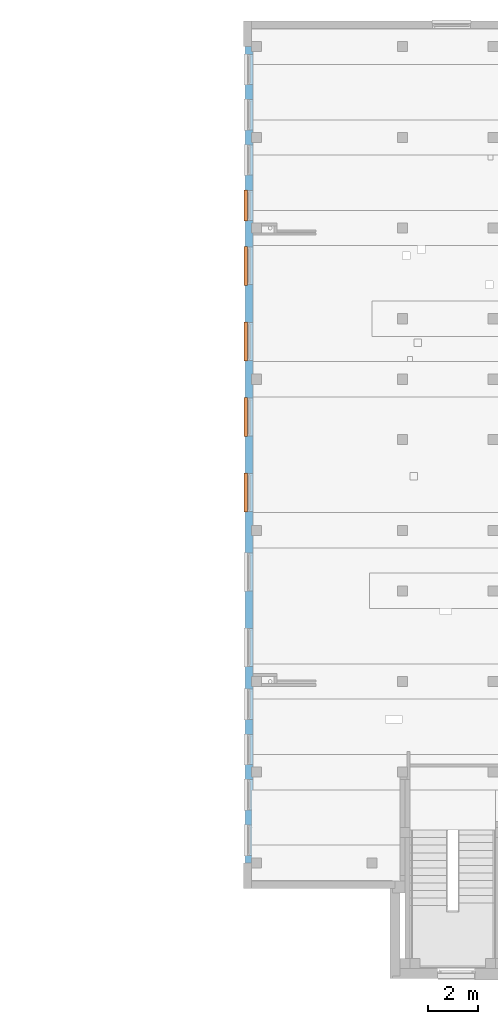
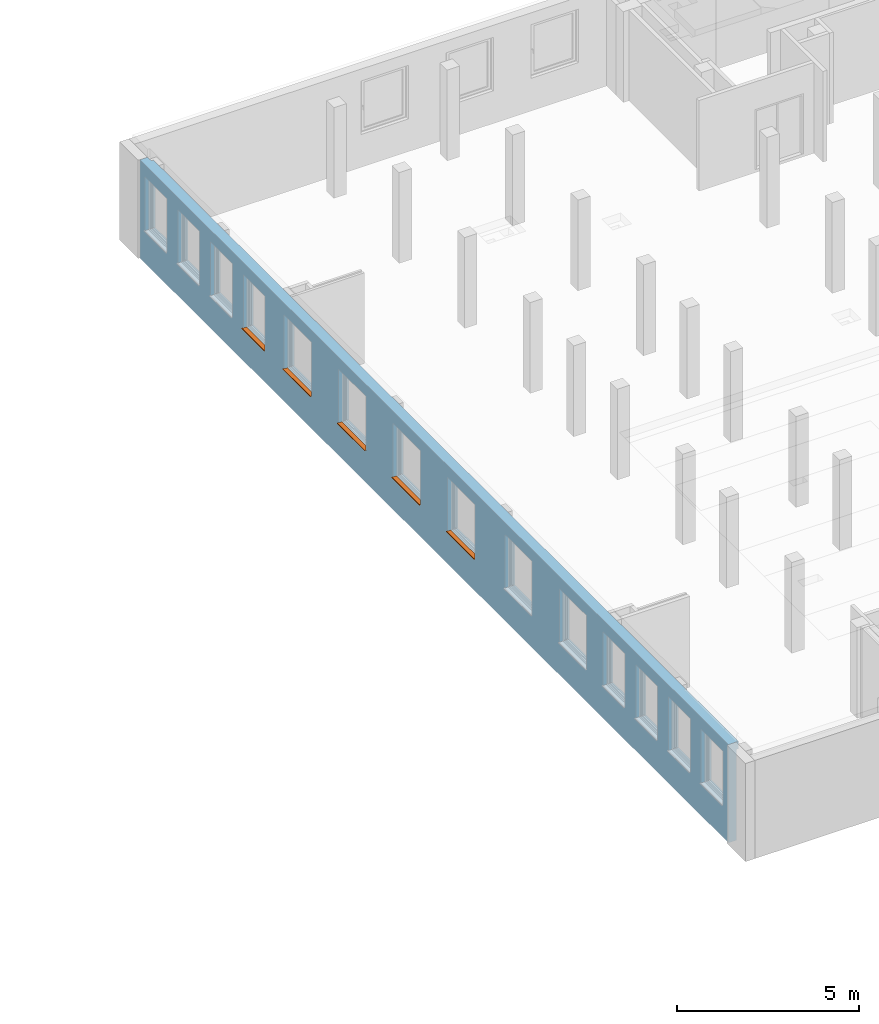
# One storey, part 22 of 27: 5 proxies, 14 openings, plus 1 element that does not belong to this part.
"""IFC4 building model written with IfcOpenShell, lengths in metres."""

from ifc_helpers import new_model, entity, si_unit, converted_unit, derived_unit, frame, origin, origin_with_axes, place, context, subcontext, project, spatial, polyline, outline, extrude, clip, bounded_halfspace, faceted_brep, source, transform, mapped, material, layer, layer_set, layer_usage, element, fill, save


model = new_model("IFC4")

# Units and contexts
model_context = context("Model", 3, precision=1e-05, world=origin())
body_context = subcontext(model_context, "Body", "Model", "MODEL_VIEW")
ifc_project = project(units=[si_unit("LENGTHUNIT", "METRE"), si_unit("AREAUNIT", "SQUARE_METRE"), si_unit("VOLUMEUNIT", "CUBIC_METRE"), si_unit("MASSUNIT", "GRAM", prefix="KILO"), converted_unit("PLANEANGLEUNIT", "DEGREE", entity("IfcPlaneAngleMeasure", 0.0174532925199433), si_unit("PLANEANGLEUNIT", "RADIAN"), dimensions=[0, 0, 0, 0, 0, 0, 0]), derived_unit("THERMALTRANSMITTANCEUNIT", [(si_unit("POWERUNIT", "WATT"), 1), (si_unit("THERMODYNAMICTEMPERATUREUNIT", "KELVIN"), -1), (si_unit("LENGTHUNIT", "METRE"), -2)]), derived_unit("VOLUMETRICFLOWRATEUNIT", [(si_unit("LENGTHUNIT", "METRE"), 3), (converted_unit("TIMEUNIT", "hour", entity("IfcTimeMeasure", 3600.0), si_unit("TIMEUNIT", "SECOND"), dimensions=[0, 0, 1, 0, 0, 0, 0]), -1), (si_unit("LENGTHUNIT", "METRE"), -1)])], contexts=[model_context])

# Site, building, storey
site_placement = place(None, origin())
site = spatial("IfcSite", under=ifc_project, at=site_placement, Name="3. ASŘ", CompositionType="ELEMENT")
building_placement = place(site_placement, origin())
building = spatial("IfcBuilding", under=site, at=building_placement, Name="Pavilon C", CompositionType="ELEMENT")
storey_placement = place(building_placement, frame((0.0, 0.0, 10.5)))
storey = spatial("IfcBuildingStorey", under=building, at=storey_placement, Name="Půdorys 4.NP", CompositionType="ELEMENT", Elevation=10.5)

# Wall, openings, proxies
ifc_material_1 = material(Name="ZELEZOBETONOVÁ KCE")
ifc_layer = layer(ifc_material_1, 0.32)
ifc_layer_set = layer_set([ifc_layer])
ifc_layer_usage = layer_usage(ifc_layer_set, "AXIS2", "POSITIVE", 0.0)
wall_placement = place(storey_placement, frame((24.5, 32.4, -0.1), z_axis=(0.0, 0.0, 1.0), x_axis=(-2.24566593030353e-16, -1.0, 0.0)))
wall = element("IfcWall", 1, at=wall_placement, inside=storey, material=ifc_layer_usage, Name="ZELEZOBETONOVÁ KCE", context=body_context, shape_type="Clipping", body=[
    clip(clip(clip(clip(clip(clip(clip(extrude(outline(polyline([(-32.4, 0.0), (-7.18613097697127e-17, -1.61376495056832e-32), (-7.18613097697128e-17, 0.32), (-32.2, 0.32), (-32.2, 0.25), (-32.4, 0.25), (-32.4, 0.0)])), frame((32.4, 0.0, 0.0), z_axis=(0.0, 0.0, 1.0), x_axis=(1.0, 0.0, 0.0)), (0.0, 0.0, 1.0), 3.3), bounded_halfspace(frame((13.2, 0.284999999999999, 3.05), z_axis=(0.0, 0.0, 1.0), x_axis=(2.24566593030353e-16, -1.0, 0.0)), True, origin_with_axes(), polyline([(13.0, 0.319999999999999), (13.0, 0.250000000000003), (13.4, 0.250000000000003), (13.4, 0.319999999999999), (13.0, 0.319999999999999)]))), bounded_halfspace(frame((25.2, 0.284999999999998, 3.05), z_axis=(0.0, 0.0, 1.0), x_axis=(2.24566593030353e-16, -1.0, 0.0)), True, origin_with_axes(), polyline([(25.0, 0.319999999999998), (25.0, 0.249999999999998), (25.4, 0.249999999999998), (25.4, 0.319999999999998), (25.0, 0.319999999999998)]))), bounded_halfspace(frame((28.8, 0.284999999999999, 3.05), z_axis=(0.0, 0.0, 1.0), x_axis=(2.24566593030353e-16, -1.0, 0.0)), True, origin_with_axes(), polyline([(28.6, 0.319999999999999), (28.6, 0.249999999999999), (29.0, 0.249999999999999), (29.0, 0.319999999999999), (28.6, 0.319999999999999)]))), bounded_halfspace(frame((19.2, 0.285000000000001, 3.05), z_axis=(0.0, 0.0, 1.0), x_axis=(2.24566593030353e-16, -1.0, 0.0)), True, origin_with_axes(), polyline([(19.0, 0.320000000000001), (19.0, 0.249999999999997), (19.4, 0.249999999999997), (19.4, 0.320000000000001), (19.0, 0.320000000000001)]))), bounded_halfspace(frame((7.2, 0.285000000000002, 3.05), z_axis=(0.0, 0.0, 1.0), x_axis=(2.24566593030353e-16, -1.0, 0.0)), True, origin_with_axes(), polyline([(7.0, 0.320000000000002), (7.0, 0.250000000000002), (7.4, 0.250000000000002), (7.4, 0.320000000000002), (7.0, 0.320000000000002)]))), bounded_halfspace(frame((32.3, 0.285, 3.05), z_axis=(0.0, 0.0, 1.0), x_axis=(2.24566593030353e-16, -1.0, 0.0)), True, origin_with_axes(), polyline([(32.2, 0.32), (32.2, 0.25), (32.4, 0.25), (32.4, 0.32), (32.2, 0.32)]))), bounded_halfspace(frame((3.6, 0.284999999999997, 3.05), z_axis=(0.0, 0.0, 1.0), x_axis=(2.24566593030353e-16, -1.0, 0.0)), True, origin_with_axes(), polyline([(3.4, 0.320000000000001), (3.4, 0.249999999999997), (3.8, 0.249999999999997), (3.8, 0.320000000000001), (3.4, 0.320000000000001)]))),
])
opening_1_placement = place(wall_placement, frame((30.9, -3.36849889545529e-16, 1.1), z_axis=(0.0, 1.0, 0.0), x_axis=(0.0, 0.0, 1.0)))
element("IfcOpeningElement", 2, at=opening_1_placement, cuts=wall, Name="Okenní otvor", ObjectType="Opening", context=body_context, shape_type="SweptSolid", body=[
    extrude(outline(polyline([(0.0, 1.2), (1.8, 1.2), (1.8, 0.0), (0.0, 0.0), (0.0, 1.2)])), origin_with_axes(), (0.0, 0.0, 1.0), 0.32),
])
opening_2_placement = place(wall_placement, frame((29.1, -7.41069757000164e-16, 1.1), z_axis=(0.0, 1.0, 0.0), x_axis=(0.0, 0.0, 1.0)))
element("IfcOpeningElement", 3, at=opening_2_placement, cuts=wall, Name="Okenní otvor", ObjectType="Opening", context=body_context, shape_type="SweptSolid", body=[
    extrude(outline(polyline([(0.0, 1.2), (1.8, 1.2), (1.8, 0.0), (0.0, 0.0), (0.0, 1.2)])), origin_with_axes(), (0.0, 0.0, 1.0), 0.32),
])
opening_3_placement = place(wall_placement, frame((27.3, -1.1452896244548e-15, 1.1), z_axis=(0.0, 1.0, 0.0), x_axis=(0.0, 0.0, 1.0)))
element("IfcOpeningElement", 4, at=opening_3_placement, cuts=wall, Name="Okenní otvor", ObjectType="Opening", context=body_context, shape_type="SweptSolid", body=[
    extrude(outline(polyline([(0.0, 1.2), (1.8, 1.2), (1.8, 0.0), (0.0, 0.0), (0.0, 1.2)])), origin_with_axes(), (0.0, 0.0, 1.0), 0.32),
])
opening_4_placement = place(wall_placement, frame((25.5, -1.54950949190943e-15, 1.1), z_axis=(0.0, 1.0, 0.0), x_axis=(0.0, 0.0, 1.0)))
element("IfcOpeningElement", 5, at=opening_4_placement, cuts=wall, Name="Okenní otvor", ObjectType="Opening", context=body_context, shape_type="SweptSolid", body=[
    extrude(outline(polyline([(0.0, 1.2), (1.8, 1.2), (1.8, 0.0), (0.0, 0.0), (0.0, 1.2)])), origin_with_axes(), (0.0, 0.0, 1.0), 0.32),
])
opening_5_placement = place(wall_placement, frame((23.1, -2.08846931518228e-15, 1.1), z_axis=(0.0, 1.0, 0.0), x_axis=(0.0, 0.0, 1.0)))
element("IfcOpeningElement", 6, at=opening_5_placement, cuts=wall, Name="Okenní otvor", ObjectType="Opening", context=body_context, shape_type="SweptSolid", body=[
    extrude(outline(polyline([(0.0, 1.5), (1.8, 1.5), (1.8, 0.0), (0.0, 0.0), (0.0, 1.5)])), origin_with_axes(), (0.0, 0.0, 1.0), 0.320000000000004),
])
opening_6_placement = place(wall_placement, frame((20.1, 8.75809712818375e-16, 1.1), z_axis=(0.0, 1.0, 0.0), x_axis=(0.0, 0.0, 1.0)))
element("IfcOpeningElement", 7, at=opening_6_placement, cuts=wall, Name="Okenní otvor", ObjectType="Opening", context=body_context, shape_type="SweptSolid", body=[
    extrude(outline(polyline([(0.0, 1.5), (1.8, 1.5), (1.8, 0.0), (0.0, 0.0), (0.0, 1.5)])), origin_with_axes(), (0.0, 0.0, 1.0), 0.32),
])
opening_7_placement = place(wall_placement, frame((16.95, 1.68424944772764e-16, 1.1), z_axis=(0.0, 1.0, 0.0), x_axis=(0.0, 0.0, 1.0)))
opening_7 = element("IfcOpeningElement", 8, at=opening_7_placement, cuts=wall, Name="Okenní otvor", ObjectType="Opening", context=body_context, shape_type="SweptSolid", body=[
    extrude(outline(polyline([(0.0, 1.5), (1.8, 1.5), (1.8, 0.0), (0.0, 0.0), (0.0, 1.5)])), origin_with_axes(), (0.0, 0.0, 1.0), 0.32),
])
opening_8_placement = place(wall_placement, frame((13.95, -5.05274834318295e-16, 1.1), z_axis=(0.0, 1.0, 0.0), x_axis=(0.0, 0.0, 1.0)))
opening_8 = element("IfcOpeningElement", 9, at=opening_8_placement, cuts=wall, Name="Okenní otvor", ObjectType="Opening", context=body_context, shape_type="SweptSolid", body=[
    extrude(outline(polyline([(0.0, 1.5), (1.8, 1.5), (1.8, 0.0), (0.0, 0.0), (0.0, 1.5)])), origin_with_axes(), (0.0, 0.0, 1.0), 0.32),
])
opening_9_placement = place(wall_placement, frame((10.95, -1.17897461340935e-15, 1.1), z_axis=(0.0, 1.0, 0.0), x_axis=(0.0, 0.0, 1.0)))
opening_9 = element("IfcOpeningElement", 10, at=opening_9_placement, cuts=wall, Name="Okenní otvor", ObjectType="Opening", context=body_context, shape_type="SweptSolid", body=[
    extrude(outline(polyline([(0.0, 1.5), (1.8, 1.5), (1.8, 0.0), (0.0, 0.0), (0.0, 1.5)])), origin_with_axes(), (0.0, 0.0, 1.0), 0.32),
])
opening_10_placement = place(wall_placement, frame((7.95, -1.85267439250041e-15, 1.1), z_axis=(0.0, 1.0, 0.0), x_axis=(0.0, 0.0, 1.0)))
opening_10 = element("IfcOpeningElement", 11, at=opening_10_placement, cuts=wall, Name="Okenní otvor", ObjectType="Opening", context=body_context, shape_type="SweptSolid", body=[
    extrude(outline(polyline([(0.0, 1.5), (1.8, 1.5), (1.8, 0.0), (0.0, 0.0), (0.0, 1.5)])), origin_with_axes(), (0.0, 0.0, 1.0), 0.320000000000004),
])
opening_11_placement = place(wall_placement, frame((5.7, 1.28002958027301e-15, 1.1), z_axis=(0.0, 1.0, 0.0), x_axis=(0.0, 0.0, 1.0)))
opening_11 = element("IfcOpeningElement", 12, at=opening_11_placement, cuts=wall, Name="Okenní otvor", ObjectType="Opening", context=body_context, shape_type="SweptSolid", body=[
    extrude(outline(polyline([(0.0, 1.2), (1.8, 1.2), (1.8, 0.0), (0.0, 0.0), (0.0, 1.2)])), origin_with_axes(), (0.0, 0.0, 1.0), 0.32),
])
opening_12_placement = place(wall_placement, frame((3.90000000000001, 8.75809712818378e-16, 1.1), z_axis=(0.0, 1.0, 0.0), x_axis=(0.0, 0.0, 1.0)))
element("IfcOpeningElement", 13, at=opening_12_placement, cuts=wall, Name="Okenní otvor", ObjectType="Opening", context=body_context, shape_type="SweptSolid", body=[
    extrude(outline(polyline([(0.0, 1.2), (1.8, 1.2), (1.8, 0.0), (0.0, 0.0), (0.0, 1.2)])), origin_with_axes(), (0.0, 0.0, 1.0), 0.32),
])
opening_13_placement = place(wall_placement, frame((2.10000000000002, 4.71589845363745e-16, 1.1), z_axis=(0.0, 1.0, 0.0), x_axis=(0.0, 0.0, 1.0)))
element("IfcOpeningElement", 14, at=opening_13_placement, cuts=wall, Name="Okenní otvor", ObjectType="Opening", context=body_context, shape_type="SweptSolid", body=[
    extrude(outline(polyline([(0.0, 1.2), (1.8, 1.2), (1.8, 0.0), (0.0, 0.0), (0.0, 1.2)])), origin_with_axes(), (0.0, 0.0, 1.0), 0.32),
])
opening_14_placement = place(wall_placement, frame((0.300000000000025, 6.73699779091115e-17, 1.1), z_axis=(-1.77635683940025e-16, 1.0, 0.0), x_axis=(0.0, 0.0, 1.0)))
element("IfcOpeningElement", 15, at=opening_14_placement, cuts=wall, Name="Okenní otvor", ObjectType="Opening", context=body_context, shape_type="SweptSolid", body=[
    extrude(outline(polyline([(0.0, 1.2), (1.8, 1.2), (1.8, 0.0), (0.0, 0.0), (0.0, 1.2)])), origin_with_axes(), (0.0, 0.0, 1.0), 0.32),
])
ifc_material_2 = material(Name="PLECH")
shared_shape_1 = source(origin_with_axes(), body_context, "Body", "Brep", [
    faceted_brep([(7.27595761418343e-15, -1.09139364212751e-14, 0.0), (7.27595761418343e-15, 0.0999999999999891, 0.0), (7.27595761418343e-15, 0.0999999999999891, 0.005), (7.27595761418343e-15, -1.09139364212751e-14, 0.005), (1.50000000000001, -1.09139364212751e-14, 0.0), (1.50000000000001, -1.09139364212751e-14, 0.005), (1.50000000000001, 0.0999999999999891, 0.005), (1.50000000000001, 0.0999999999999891, 0.0), (-0.0199999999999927, -1.09139364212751e-14, 0.0), (-0.0199999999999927, -0.0350000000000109, 0.0), (1.52000000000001, -0.0350000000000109, 0.0), (1.52000000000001, -1.09139364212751e-14, 0.0), (1.52000000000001, -1.09139364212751e-14, 0.005), (1.52000000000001, -0.0400000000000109, 0.005), (-0.0199999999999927, -0.0400000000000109, 0.005), (-0.0199999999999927, -1.09139364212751e-14, 0.005), (-0.0199999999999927, -0.0400000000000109, -0.025), (-0.0199999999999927, -0.0350000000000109, -0.025), (1.52000000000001, -0.0350000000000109, -0.025), (1.52000000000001, -0.0400000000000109, -0.025)], [[[0, 1, 2, 3]], [[4, 5, 6, 7]], [[1, 0, 8, 9, 10, 11, 4, 7]], [[2, 1, 7, 6]], [[3, 2, 6, 5, 12, 13, 14, 15]], [[8, 15, 14, 16, 17, 9]], [[11, 10, 18, 19, 13, 12]], [[15, 8, 0, 3]], [[5, 4, 11, 12]], [[16, 14, 13, 19]], [[17, 16, 19, 18]], [[9, 17, 18, 10]]], orient=[[False], [False], [False], [False], [False], [False], [False], [False], [False], [False], [False], [False]]),
    faceted_brep([(-0.0199999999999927, -1.09139364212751e-14, 0.0), (-0.0199999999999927, 0.0999999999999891, 0.0), (-0.0199999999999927, 0.0999999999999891, 0.005), (-0.0199999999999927, -1.09139364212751e-14, 0.005), (7.27595761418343e-15, -1.09139364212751e-14, 0.0), (7.27595761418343e-15, -1.09139364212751e-14, 0.005), (7.27595761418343e-15, 0.0999999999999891, 0.005), (7.27595761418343e-15, 0.0999999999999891, 0.0)], [[[0, 1, 2, 3]], [[4, 5, 6, 7]], [[1, 0, 4, 7]], [[2, 1, 7, 6]], [[3, 2, 6, 5]], [[0, 3, 5, 4]]], orient=[[False], [False], [False], [False], [False], [False]]),
    faceted_brep([(1.50000000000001, -1.09139364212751e-14, 0.0), (1.50000000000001, 0.0999999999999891, 0.0), (1.50000000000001, 0.0999999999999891, 0.005), (1.50000000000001, -1.09139364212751e-14, 0.005), (1.52000000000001, -1.09139364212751e-14, 0.0), (1.52000000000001, -1.09139364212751e-14, 0.005), (1.52000000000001, 0.0999999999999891, 0.005), (1.52000000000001, 0.0999999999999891, 0.0)], [[[0, 1, 2, 3]], [[4, 5, 6, 7]], [[1, 0, 4, 7]], [[2, 1, 7, 6]], [[3, 2, 6, 5]], [[0, 3, 5, 4]]], orient=[[False], [False], [False], [False], [False], [False]]),
])
proxy_1_placement = place(opening_7_placement, frame((0.0, 0.0, 0.0), z_axis=(1.0, 0.0, 0.0), x_axis=(0.0, 1.0, 0.0)))
proxy_1 = element("IfcBuildingElementProxy", 16, at=proxy_1_placement, inside=storey, material=ifc_material_2, Name="Parapet vnější", context=body_context, shape_type="MappedRepresentation", body=[
    mapped(shared_shape_1, transform((0.0, 0.0, 0.0), x_axis=(1.0, 0.0, 0.0), y_axis=(0.0, 1.0, 0.0), z_axis=(0.0, 0.0, 1.0), scale=1.0)),
])
fill(opening_7, proxy_1)
ifc_material_3 = material(Name="PLECH")
shared_shape_2 = source(origin_with_axes(), body_context, "Body", "Brep", [
    faceted_brep([(7.27595761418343e-15, -7.27595761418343e-15, 0.0), (7.27595761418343e-15, 0.0999999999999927, 0.0), (7.27595761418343e-15, 0.0999999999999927, 0.005), (7.27595761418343e-15, -7.27595761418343e-15, 0.005), (1.50000000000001, -7.27595761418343e-15, 0.0), (1.50000000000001, -7.27595761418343e-15, 0.005), (1.50000000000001, 0.0999999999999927, 0.005), (1.50000000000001, 0.0999999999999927, 0.0), (-0.0199999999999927, -7.27595761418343e-15, 0.0), (-0.0199999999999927, -0.0350000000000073, 0.0), (1.52000000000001, -0.0350000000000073, 0.0), (1.52000000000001, -7.27595761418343e-15, 0.0), (1.52000000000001, -7.27595761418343e-15, 0.005), (1.52000000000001, -0.0400000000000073, 0.005), (-0.0199999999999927, -0.0400000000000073, 0.005), (-0.0199999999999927, -7.27595761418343e-15, 0.005), (-0.0199999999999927, -0.0400000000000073, -0.025), (-0.0199999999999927, -0.0350000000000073, -0.025), (1.52000000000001, -0.0350000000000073, -0.025), (1.52000000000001, -0.0400000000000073, -0.025)], [[[0, 1, 2, 3]], [[4, 5, 6, 7]], [[1, 0, 8, 9, 10, 11, 4, 7]], [[2, 1, 7, 6]], [[3, 2, 6, 5, 12, 13, 14, 15]], [[8, 15, 14, 16, 17, 9]], [[11, 10, 18, 19, 13, 12]], [[15, 8, 0, 3]], [[5, 4, 11, 12]], [[16, 14, 13, 19]], [[17, 16, 19, 18]], [[9, 17, 18, 10]]], orient=[[False], [False], [False], [False], [False], [False], [False], [False], [False], [False], [False], [False]]),
    faceted_brep([(-0.0199999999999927, -7.27595761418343e-15, 0.0), (-0.0199999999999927, 0.0999999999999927, 0.0), (-0.0199999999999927, 0.0999999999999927, 0.005), (-0.0199999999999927, -7.27595761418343e-15, 0.005), (7.27595761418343e-15, -7.27595761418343e-15, 0.0), (7.27595761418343e-15, -7.27595761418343e-15, 0.005), (7.27595761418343e-15, 0.0999999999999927, 0.005), (7.27595761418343e-15, 0.0999999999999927, 0.0)], [[[0, 1, 2, 3]], [[4, 5, 6, 7]], [[1, 0, 4, 7]], [[2, 1, 7, 6]], [[3, 2, 6, 5]], [[0, 3, 5, 4]]], orient=[[False], [False], [False], [False], [False], [False]]),
    faceted_brep([(1.50000000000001, -7.27595761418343e-15, 0.0), (1.50000000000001, 0.0999999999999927, 0.0), (1.50000000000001, 0.0999999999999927, 0.005), (1.50000000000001, -7.27595761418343e-15, 0.005), (1.52000000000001, -7.27595761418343e-15, 0.0), (1.52000000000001, -7.27595761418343e-15, 0.005), (1.52000000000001, 0.0999999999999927, 0.005), (1.52000000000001, 0.0999999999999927, 0.0)], [[[0, 1, 2, 3]], [[4, 5, 6, 7]], [[1, 0, 4, 7]], [[2, 1, 7, 6]], [[3, 2, 6, 5]], [[0, 3, 5, 4]]], orient=[[False], [False], [False], [False], [False], [False]]),
])
proxy_2_placement = place(opening_8_placement, frame((0.0, 0.0, 0.0), z_axis=(1.0, 0.0, 0.0), x_axis=(0.0, 1.0, 0.0)))
proxy_2 = element("IfcBuildingElementProxy", 17, at=proxy_2_placement, inside=storey, material=ifc_material_3, Name="Parapet vnější", context=body_context, shape_type="MappedRepresentation", body=[
    mapped(shared_shape_2, transform((0.0, 0.0, 0.0), x_axis=(1.0, 0.0, 0.0), y_axis=(0.0, 1.0, 0.0), z_axis=(0.0, 0.0, 1.0), scale=1.0)),
])
fill(opening_8, proxy_2)
ifc_material_4 = material(Name="PLECH")
shared_shape_3 = source(origin_with_axes(), body_context, "Body", "Brep", [
    faceted_brep([(1.09139364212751e-14, -7.27595761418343e-15, 0.0), (1.09139364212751e-14, 0.0999999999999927, 0.0), (1.09139364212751e-14, 0.0999999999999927, 0.005), (1.09139364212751e-14, -7.27595761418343e-15, 0.005), (1.50000000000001, -7.27595761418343e-15, 0.0), (1.50000000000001, -7.27595761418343e-15, 0.005), (1.50000000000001, 0.0999999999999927, 0.005), (1.50000000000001, 0.0999999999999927, 0.0), (-0.0199999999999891, -7.27595761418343e-15, 0.0), (-0.0199999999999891, -0.0350000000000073, 0.0), (1.52000000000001, -0.0350000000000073, 0.0), (1.52000000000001, -7.27595761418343e-15, 0.0), (1.52000000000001, -7.27595761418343e-15, 0.005), (1.52000000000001, -0.0400000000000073, 0.005), (-0.0199999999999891, -0.0400000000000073, 0.005), (-0.0199999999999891, -7.27595761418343e-15, 0.005), (-0.0199999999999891, -0.0400000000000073, -0.025), (-0.0199999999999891, -0.0350000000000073, -0.025), (1.52000000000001, -0.0350000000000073, -0.025), (1.52000000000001, -0.0400000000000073, -0.025)], [[[0, 1, 2, 3]], [[4, 5, 6, 7]], [[1, 0, 8, 9, 10, 11, 4, 7]], [[2, 1, 7, 6]], [[3, 2, 6, 5, 12, 13, 14, 15]], [[8, 15, 14, 16, 17, 9]], [[11, 10, 18, 19, 13, 12]], [[15, 8, 0, 3]], [[5, 4, 11, 12]], [[16, 14, 13, 19]], [[17, 16, 19, 18]], [[9, 17, 18, 10]]], orient=[[False], [False], [False], [False], [False], [False], [False], [False], [False], [False], [False], [False]]),
    faceted_brep([(-0.0199999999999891, -7.27595761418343e-15, 0.0), (-0.0199999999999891, 0.0999999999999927, 0.0), (-0.0199999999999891, 0.0999999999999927, 0.005), (-0.0199999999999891, -7.27595761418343e-15, 0.005), (1.09139364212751e-14, -7.27595761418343e-15, 0.0), (1.09139364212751e-14, -7.27595761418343e-15, 0.005), (1.09139364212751e-14, 0.0999999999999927, 0.005), (1.09139364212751e-14, 0.0999999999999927, 0.0)], [[[0, 1, 2, 3]], [[4, 5, 6, 7]], [[1, 0, 4, 7]], [[2, 1, 7, 6]], [[3, 2, 6, 5]], [[0, 3, 5, 4]]], orient=[[False], [False], [False], [False], [False], [False]]),
    faceted_brep([(1.50000000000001, -7.27595761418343e-15, 0.0), (1.50000000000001, 0.0999999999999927, 0.0), (1.50000000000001, 0.0999999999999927, 0.005), (1.50000000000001, -7.27595761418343e-15, 0.005), (1.52000000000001, -7.27595761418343e-15, 0.0), (1.52000000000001, -7.27595761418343e-15, 0.005), (1.52000000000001, 0.0999999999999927, 0.005), (1.52000000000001, 0.0999999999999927, 0.0)], [[[0, 1, 2, 3]], [[4, 5, 6, 7]], [[1, 0, 4, 7]], [[2, 1, 7, 6]], [[3, 2, 6, 5]], [[0, 3, 5, 4]]], orient=[[False], [False], [False], [False], [False], [False]]),
])
proxy_3_placement = place(opening_9_placement, frame((0.0, 0.0, 0.0), z_axis=(1.0, 0.0, 0.0), x_axis=(0.0, 1.0, 0.0)))
proxy_3 = element("IfcBuildingElementProxy", 18, at=proxy_3_placement, inside=storey, material=ifc_material_4, Name="Parapet vnější", context=body_context, shape_type="MappedRepresentation", body=[
    mapped(shared_shape_3, transform((0.0, 0.0, 0.0), x_axis=(1.0, 0.0, 0.0), y_axis=(0.0, 1.0, 0.0), z_axis=(0.0, 0.0, 1.0), scale=1.0)),
])
fill(opening_9, proxy_3)
ifc_material_5 = material(Name="PLECH")
shared_shape_4 = source(origin_with_axes(), body_context, "Body", "Brep", [
    faceted_brep([(7.27595761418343e-15, -7.27595761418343e-15, 0.0), (7.27595761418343e-15, 0.0999999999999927, 0.0), (7.27595761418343e-15, 0.0999999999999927, 0.005), (7.27595761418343e-15, -7.27595761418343e-15, 0.005), (1.50000000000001, -3.63797880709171e-15, 0.0), (1.50000000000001, -3.63797880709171e-15, 0.005), (1.50000000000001, 0.0999999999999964, 0.005), (1.50000000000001, 0.0999999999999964, 0.0), (-0.0199999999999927, -7.27595761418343e-15, 0.0), (-0.0199999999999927, -0.0350000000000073, 0.0), (1.52000000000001, -0.0350000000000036, 0.0), (1.52000000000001, -3.63797880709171e-15, 0.0), (1.52000000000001, -3.63797880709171e-15, 0.005), (1.52000000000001, -0.0400000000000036, 0.005), (-0.0199999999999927, -0.0400000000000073, 0.005), (-0.0199999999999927, -7.27595761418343e-15, 0.005), (-0.0199999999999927, -0.0400000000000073, -0.025), (-0.0199999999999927, -0.0350000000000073, -0.025), (1.52000000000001, -0.0350000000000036, -0.025), (1.52000000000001, -0.0400000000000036, -0.025)], [[[0, 1, 2, 3]], [[4, 5, 6, 7]], [[1, 0, 8, 9, 10, 11, 4, 7]], [[2, 1, 7, 6]], [[3, 2, 6, 5, 12, 13, 14, 15]], [[8, 15, 14, 16, 17, 9]], [[11, 10, 18, 19, 13, 12]], [[15, 8, 0, 3]], [[5, 4, 11, 12]], [[16, 14, 13, 19]], [[17, 16, 19, 18]], [[9, 17, 18, 10]]], orient=[[False], [False], [False], [False], [False], [False], [False], [False], [False], [False], [False], [False]]),
    faceted_brep([(-0.0199999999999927, -7.27595761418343e-15, 0.0), (-0.0199999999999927, 0.0999999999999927, 0.0), (-0.0199999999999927, 0.0999999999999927, 0.005), (-0.0199999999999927, -7.27595761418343e-15, 0.005), (7.27595761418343e-15, -7.27595761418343e-15, 0.0), (7.27595761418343e-15, -7.27595761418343e-15, 0.005), (7.27595761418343e-15, 0.0999999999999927, 0.005), (7.27595761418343e-15, 0.0999999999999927, 0.0)], [[[0, 1, 2, 3]], [[4, 5, 6, 7]], [[1, 0, 4, 7]], [[2, 1, 7, 6]], [[3, 2, 6, 5]], [[0, 3, 5, 4]]], orient=[[False], [False], [False], [False], [False], [False]]),
    faceted_brep([(1.50000000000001, -3.63797880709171e-15, 0.0), (1.50000000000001, 0.0999999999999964, 0.0), (1.50000000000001, 0.0999999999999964, 0.005), (1.50000000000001, -3.63797880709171e-15, 0.005), (1.52000000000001, -3.63797880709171e-15, 0.0), (1.52000000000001, -3.63797880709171e-15, 0.005), (1.52000000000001, 0.0999999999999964, 0.005), (1.52000000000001, 0.0999999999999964, 0.0)], [[[0, 1, 2, 3]], [[4, 5, 6, 7]], [[1, 0, 4, 7]], [[2, 1, 7, 6]], [[3, 2, 6, 5]], [[0, 3, 5, 4]]], orient=[[False], [False], [False], [False], [False], [False]]),
])
proxy_4_placement = place(opening_10_placement, frame((0.0, 0.0, 0.0), z_axis=(1.0, 0.0, 0.0), x_axis=(0.0, 1.0, 0.0)))
proxy_4 = element("IfcBuildingElementProxy", 19, at=proxy_4_placement, inside=storey, material=ifc_material_5, Name="Parapet vnější", context=body_context, shape_type="MappedRepresentation", body=[
    mapped(shared_shape_4, transform((0.0, 0.0, 0.0), x_axis=(1.0, 0.0, 0.0), y_axis=(0.0, 1.0, 0.0), z_axis=(0.0, 0.0, 1.0), scale=1.0)),
])
fill(opening_10, proxy_4)
ifc_material_6 = material(Name="PLECH")
shared_shape_5 = source(origin_with_axes(), body_context, "Body", "Brep", [
    faceted_brep([(7.27595761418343e-15, -7.27595761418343e-15, 0.0), (7.27595761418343e-15, 0.0999999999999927, 0.0), (7.27595761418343e-15, 0.0999999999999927, 0.005), (7.27595761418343e-15, -7.27595761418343e-15, 0.005), (1.20000000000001, -7.27595761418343e-15, 0.0), (1.20000000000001, -7.27595761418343e-15, 0.005), (1.20000000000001, 0.0999999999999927, 0.005), (1.20000000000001, 0.0999999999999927, 0.0), (-0.0199999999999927, -7.27595761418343e-15, 0.0), (-0.0199999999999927, -0.0350000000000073, 0.0), (1.22000000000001, -0.0350000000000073, 0.0), (1.22000000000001, -7.27595761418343e-15, 0.0), (1.22000000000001, -7.27595761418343e-15, 0.005), (1.22000000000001, -0.0400000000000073, 0.005), (-0.0199999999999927, -0.0400000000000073, 0.005), (-0.0199999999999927, -7.27595761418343e-15, 0.005), (-0.0199999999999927, -0.0400000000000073, -0.025), (-0.0199999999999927, -0.0350000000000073, -0.025), (1.22000000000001, -0.0350000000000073, -0.025), (1.22000000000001, -0.0400000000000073, -0.025)], [[[0, 1, 2, 3]], [[4, 5, 6, 7]], [[1, 0, 8, 9, 10, 11, 4, 7]], [[2, 1, 7, 6]], [[3, 2, 6, 5, 12, 13, 14, 15]], [[8, 15, 14, 16, 17, 9]], [[11, 10, 18, 19, 13, 12]], [[15, 8, 0, 3]], [[5, 4, 11, 12]], [[16, 14, 13, 19]], [[17, 16, 19, 18]], [[9, 17, 18, 10]]], orient=[[False], [False], [False], [False], [False], [False], [False], [False], [False], [False], [False], [False]]),
    faceted_brep([(-0.0199999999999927, -7.27595761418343e-15, 0.0), (-0.0199999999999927, 0.0999999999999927, 0.0), (-0.0199999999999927, 0.0999999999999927, 0.005), (-0.0199999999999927, -7.27595761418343e-15, 0.005), (7.27595761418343e-15, -7.27595761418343e-15, 0.0), (7.27595761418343e-15, -7.27595761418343e-15, 0.005), (7.27595761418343e-15, 0.0999999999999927, 0.005), (7.27595761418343e-15, 0.0999999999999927, 0.0)], [[[0, 1, 2, 3]], [[4, 5, 6, 7]], [[1, 0, 4, 7]], [[2, 1, 7, 6]], [[3, 2, 6, 5]], [[0, 3, 5, 4]]], orient=[[False], [False], [False], [False], [False], [False]]),
    faceted_brep([(1.20000000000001, -7.27595761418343e-15, 0.0), (1.20000000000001, 0.0999999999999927, 0.0), (1.20000000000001, 0.0999999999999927, 0.005), (1.20000000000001, -7.27595761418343e-15, 0.005), (1.22000000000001, -7.27595761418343e-15, 0.0), (1.22000000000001, -7.27595761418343e-15, 0.005), (1.22000000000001, 0.0999999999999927, 0.005), (1.22000000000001, 0.0999999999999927, 0.0)], [[[0, 1, 2, 3]], [[4, 5, 6, 7]], [[1, 0, 4, 7]], [[2, 1, 7, 6]], [[3, 2, 6, 5]], [[0, 3, 5, 4]]], orient=[[False], [False], [False], [False], [False], [False]]),
])
proxy_5_placement = place(opening_11_placement, frame((0.0, 0.0, 0.0), z_axis=(1.0, 0.0, 0.0), x_axis=(0.0, 1.0, 0.0)))
proxy_5 = element("IfcBuildingElementProxy", 20, at=proxy_5_placement, inside=storey, material=ifc_material_6, Name="Parapet vnější", context=body_context, shape_type="MappedRepresentation", body=[
    mapped(shared_shape_5, transform((0.0, 0.0, 0.0), x_axis=(1.0, 0.0, 0.0), y_axis=(0.0, 1.0, 0.0), z_axis=(0.0, 0.0, 1.0), scale=1.0)),
])
fill(opening_11, proxy_5)

save(model, "model.ifc")
